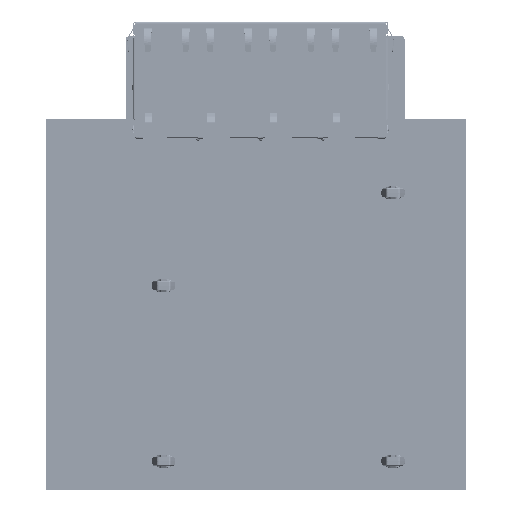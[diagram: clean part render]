
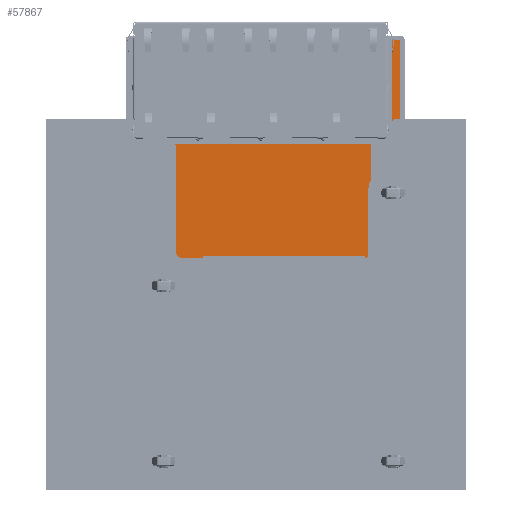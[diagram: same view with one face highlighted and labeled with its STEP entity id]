
A CAD part, front view. The second image highlights one B-rep face of the part: STEP entity #57867.
In plain terms, the highlighted planar face has unit normal (0, -1, 0).
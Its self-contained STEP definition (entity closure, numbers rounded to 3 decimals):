
#57229=DIRECTION('',(0.,0.,-1.));
#57230=VECTOR('',#57229,25.1);
#57231=CARTESIAN_POINT('',(43.545,-4.5,-17.249));
#57232=LINE('',#57231,#57230);
#57257=DIRECTION('',(1.,0.,0.));
#57258=VECTOR('',#57257,63.548);
#57259=CARTESIAN_POINT('',(-20.003,-4.5,-42.349));
#57260=LINE('',#57259,#57258);
#57264=DIRECTION('',(-1.,0.,0.));
#57265=VECTOR('',#57264,2.052);
#57266=CARTESIAN_POINT('',(45.597,-4.5,-17.249));
#57267=LINE('',#57266,#57265);
#57271=CARTESIAN_POINT('',(46.597,-4.5,-43.8));
#57272=DIRECTION('',(0.,1.,0.));
#57273=DIRECTION('',(0.,0.,-1.));
#57274=AXIS2_PLACEMENT_3D('',#57271,#57272,#57273);
#57279=DIRECTION('',(-1.,0.,0.));
#57280=VECTOR('',#57279,1.4);
#57281=CARTESIAN_POINT('',(47.997,-4.5,-44.8));
#57282=LINE('',#57281,#57280);
#57286=CARTESIAN_POINT('',(47.997,-4.5,-45.8));
#57287=DIRECTION('',(0.,-1.,0.));
#57288=DIRECTION('',(1.,0.,0.));
#57289=AXIS2_PLACEMENT_3D('',#57286,#57287,#57288);
#57294=DIRECTION('',(0.,0.,1.));
#57295=VECTOR('',#57294,2.837);
#57296=CARTESIAN_POINT('',(48.997,-4.5,-48.637));
#57297=LINE('',#57296,#57295);
#57301=DIRECTION('',(1.,0.,0.));
#57302=VECTOR('',#57301,6.203);
#57303=CARTESIAN_POINT('',(42.794,-4.5,-48.637));
#57304=LINE('',#57303,#57302);
#57308=CARTESIAN_POINT('',(42.794,-4.5,-53.637));
#57309=DIRECTION('',(0.,1.,0.));
#57310=DIRECTION('',(-1.,0.,0.));
#57311=AXIS2_PLACEMENT_3D('',#57308,#57309,#57310);
#57316=DIRECTION('',(0.,0.,1.));
#57317=VECTOR('',#57316,65.012);
#57318=CARTESIAN_POINT('',(37.794,-4.5,-118.649));
#57319=LINE('',#57318,#57317);
#57323=CARTESIAN_POINT('',(42.794,-4.5,-118.649));
#57324=DIRECTION('',(0.,1.,0.));
#57325=DIRECTION('',(0.,0.,-1.));
#57326=AXIS2_PLACEMENT_3D('',#57323,#57324,#57325);
#57331=DIRECTION('',(-1.,0.,0.));
#57332=VECTOR('',#57331,6.203);
#57333=CARTESIAN_POINT('',(48.997,-4.5,-123.649));
#57334=LINE('',#57333,#57332);
#57338=CARTESIAN_POINT('',(47.997,-4.5,-123.649));
#57339=DIRECTION('',(0.,-1.,0.));
#57340=DIRECTION('',(0.,0.,-1.));
#57341=AXIS2_PLACEMENT_3D('',#57338,#57339,#57340);
#57346=DIRECTION('',(1.,0.,0.));
#57347=VECTOR('',#57346,64.);
#57348=CARTESIAN_POINT('',(-16.003,-4.5,-124.649));
#57349=LINE('',#57348,#57347);
#57353=CARTESIAN_POINT('',(-16.003,-4.5,-123.649));
#57354=DIRECTION('',(0.,-1.,0.));
#57355=DIRECTION('',(-1.,0.,0.));
#57356=AXIS2_PLACEMENT_3D('',#57353,#57354,#57355);
#57361=DIRECTION('',(-1.,0.,0.));
#57362=VECTOR('',#57361,6.203);
#57363=CARTESIAN_POINT('',(-10.8,-4.5,-123.649));
#57364=LINE('',#57363,#57362);
#57368=CARTESIAN_POINT('',(-10.8,-4.5,-118.649));
#57369=DIRECTION('',(0.,1.,0.));
#57370=DIRECTION('',(1.,0.,0.));
#57371=AXIS2_PLACEMENT_3D('',#57368,#57369,#57370);
#57376=DIRECTION('',(0.,0.,-1.));
#57377=VECTOR('',#57376,42.5);
#57378=CARTESIAN_POINT('',(-5.8,-4.5,-76.149));
#57379=LINE('',#57378,#57377);
#57383=CARTESIAN_POINT('',(-10.8,-4.5,-76.149));
#57384=DIRECTION('',(0.,1.,0.));
#57385=DIRECTION('',(0.,0.,1.));
#57386=AXIS2_PLACEMENT_3D('',#57383,#57384,#57385);
#57391=DIRECTION('',(1.,0.,0.));
#57392=VECTOR('',#57391,6.203);
#57393=CARTESIAN_POINT('',(-17.003,-4.5,-71.149));
#57394=LINE('',#57393,#57392);
#57398=DIRECTION('',(0.,0.,-1.));
#57399=VECTOR('',#57398,25.147);
#57400=CARTESIAN_POINT('',(-17.003,-4.5,-46.002));
#57401=LINE('',#57400,#57399);
#57405=CARTESIAN_POINT('',(-18.003,-4.5,-46.002));
#57406=DIRECTION('',(0.,1.,0.));
#57407=DIRECTION('',(0.,0.,1.));
#57408=AXIS2_PLACEMENT_3D('',#57405,#57406,#57407);
#57413=DIRECTION('',(1.,0.,0.));
#57414=VECTOR('',#57413,1.);
#57415=CARTESIAN_POINT('',(-19.003,-4.5,-45.002));
#57416=LINE('',#57415,#57414);
#57420=CARTESIAN_POINT('',(-19.003,-4.5,-44.002));
#57421=DIRECTION('',(0.,-1.,0.));
#57422=DIRECTION('',(-1.,0.,0.));
#57423=AXIS2_PLACEMENT_3D('',#57420,#57421,#57422);
#57428=DIRECTION('',(0.,0.,-1.));
#57429=VECTOR('',#57428,1.653);
#57430=CARTESIAN_POINT('',(-20.003,-4.5,-42.349));
#57431=LINE('',#57430,#57429);
#57442=DIRECTION('',(0.,0.,1.));
#57443=VECTOR('',#57442,26.551);
#57444=CARTESIAN_POINT('',(45.597,-4.5,-43.8));
#57445=LINE('',#57444,#57443);
#57653=CARTESIAN_POINT('',(-17.003,-4.5,-71.149));
#57654=CARTESIAN_POINT('',(-10.8,-4.5,-71.149));
#57655=VERTEX_POINT('',#57653);
#57656=VERTEX_POINT('',#57654);
#57657=CARTESIAN_POINT('',(-5.8,-4.5,-76.149));
#57658=VERTEX_POINT('',#57657);
#57659=CARTESIAN_POINT('',(-5.8,-4.5,-118.649));
#57660=VERTEX_POINT('',#57659);
#57661=CARTESIAN_POINT('',(-10.8,-4.5,-123.649));
#57662=VERTEX_POINT('',#57661);
#57663=CARTESIAN_POINT('',(-17.003,-4.5,-123.649));
#57664=VERTEX_POINT('',#57663);
#57665=CARTESIAN_POINT('',(-16.003,-4.5,-124.649));
#57666=VERTEX_POINT('',#57665);
#57667=CARTESIAN_POINT('',(47.997,-4.5,-124.649));
#57668=VERTEX_POINT('',#57667);
#57669=CARTESIAN_POINT('',(48.997,-4.5,-123.649));
#57670=VERTEX_POINT('',#57669);
#57671=CARTESIAN_POINT('',(42.794,-4.5,-123.649));
#57672=VERTEX_POINT('',#57671);
#57673=CARTESIAN_POINT('',(37.794,-4.5,-118.649));
#57674=VERTEX_POINT('',#57673);
#57675=CARTESIAN_POINT('',(37.794,-4.5,-53.637));
#57676=VERTEX_POINT('',#57675);
#57677=CARTESIAN_POINT('',(42.794,-4.5,-48.637));
#57678=VERTEX_POINT('',#57677);
#57679=CARTESIAN_POINT('',(48.997,-4.5,-48.637));
#57680=VERTEX_POINT('',#57679);
#57681=CARTESIAN_POINT('',(48.997,-4.5,-45.8));
#57682=VERTEX_POINT('',#57681);
#57683=CARTESIAN_POINT('',(47.997,-4.5,-44.8));
#57684=VERTEX_POINT('',#57683);
#57685=CARTESIAN_POINT('',(46.597,-4.5,-44.8));
#57686=VERTEX_POINT('',#57685);
#57687=CARTESIAN_POINT('',(45.597,-4.5,-43.8));
#57688=VERTEX_POINT('',#57687);
#57689=CARTESIAN_POINT('',(45.597,-4.5,-17.249));
#57690=CARTESIAN_POINT('',(43.545,-4.5,-17.249));
#57691=VERTEX_POINT('',#57689);
#57692=VERTEX_POINT('',#57690);
#57697=CARTESIAN_POINT('',(-20.003,-4.5,-44.002));
#57698=CARTESIAN_POINT('',(-19.003,-4.5,-45.002));
#57699=VERTEX_POINT('',#57697);
#57700=VERTEX_POINT('',#57698);
#57701=CARTESIAN_POINT('',(-18.003,-4.5,-45.002));
#57702=VERTEX_POINT('',#57701);
#57710=CARTESIAN_POINT('',(-17.003,-4.5,-46.002));
#57712=VERTEX_POINT('',#57710);
#57717=CARTESIAN_POINT('',(-20.003,-4.5,-42.349));
#57718=CARTESIAN_POINT('',(43.545,-4.5,-42.349));
#57719=VERTEX_POINT('',#57717);
#57720=VERTEX_POINT('',#57718);
#57810=CARTESIAN_POINT('',(0.,-4.5,0.));
#57811=DIRECTION('',(0.,-1.,0.));
#57812=DIRECTION('',(1.,0.,0.));
#57813=AXIS2_PLACEMENT_3D('',#57810,#57811,#57812);
#57814=PLANE('',#57813);
#57815=ORIENTED_EDGE('',*,*,#57789,.T.);
#57816=ORIENTED_EDGE('',*,*,#57801,.F.);
#57818=ORIENTED_EDGE('',*,*,#57817,.F.);
#57820=ORIENTED_EDGE('',*,*,#57819,.F.);
#57822=ORIENTED_EDGE('',*,*,#57821,.F.);
#57824=ORIENTED_EDGE('',*,*,#57823,.F.);
#57826=ORIENTED_EDGE('',*,*,#57825,.F.);
#57828=ORIENTED_EDGE('',*,*,#57827,.F.);
#57830=ORIENTED_EDGE('',*,*,#57829,.F.);
#57832=ORIENTED_EDGE('',*,*,#57831,.F.);
#57834=ORIENTED_EDGE('',*,*,#57833,.F.);
#57836=ORIENTED_EDGE('',*,*,#57835,.F.);
#57838=ORIENTED_EDGE('',*,*,#57837,.F.);
#57840=ORIENTED_EDGE('',*,*,#57839,.F.);
#57842=ORIENTED_EDGE('',*,*,#57841,.F.);
#57844=ORIENTED_EDGE('',*,*,#57843,.F.);
#57846=ORIENTED_EDGE('',*,*,#57845,.F.);
#57848=ORIENTED_EDGE('',*,*,#57847,.F.);
#57850=ORIENTED_EDGE('',*,*,#57849,.F.);
#57852=ORIENTED_EDGE('',*,*,#57851,.F.);
#57854=ORIENTED_EDGE('',*,*,#57853,.F.);
#57856=ORIENTED_EDGE('',*,*,#57855,.F.);
#57858=ORIENTED_EDGE('',*,*,#57857,.F.);
#57860=ORIENTED_EDGE('',*,*,#57859,.F.);
#57862=ORIENTED_EDGE('',*,*,#57861,.F.);
#57864=ORIENTED_EDGE('',*,*,#57863,.F.);
#57865=EDGE_LOOP('',(#57815,#57816,#57818,#57820,#57822,#57824,#57826,#57828,
#57830,#57832,#57834,#57836,#57838,#57840,#57842,#57844,#57846,#57848,#57850,
#57852,#57854,#57856,#57858,#57860,#57862,#57864));
#57866=FACE_OUTER_BOUND('',#57865,.F.);
#57275=CIRCLE('',#57274,1.);
#57290=CIRCLE('',#57289,1.);
#57312=CIRCLE('',#57311,5.);
#57327=CIRCLE('',#57326,5.);
#57342=CIRCLE('',#57341,1.);
#57357=CIRCLE('',#57356,1.);
#57372=CIRCLE('',#57371,5.);
#57387=CIRCLE('',#57386,5.);
#57409=CIRCLE('',#57408,1.);
#57424=CIRCLE('',#57423,1.);
#57789=EDGE_CURVE('',#57719,#57720,#57260,.T.);
#57801=EDGE_CURVE('',#57692,#57720,#57232,.T.);
#57817=EDGE_CURVE('',#57691,#57692,#57267,.T.);
#57819=EDGE_CURVE('',#57688,#57691,#57445,.T.);
#57821=EDGE_CURVE('',#57686,#57688,#57275,.T.);
#57823=EDGE_CURVE('',#57684,#57686,#57282,.T.);
#57825=EDGE_CURVE('',#57682,#57684,#57290,.T.);
#57827=EDGE_CURVE('',#57680,#57682,#57297,.T.);
#57829=EDGE_CURVE('',#57678,#57680,#57304,.T.);
#57831=EDGE_CURVE('',#57676,#57678,#57312,.T.);
#57833=EDGE_CURVE('',#57674,#57676,#57319,.T.);
#57835=EDGE_CURVE('',#57672,#57674,#57327,.T.);
#57837=EDGE_CURVE('',#57670,#57672,#57334,.T.);
#57839=EDGE_CURVE('',#57668,#57670,#57342,.T.);
#57841=EDGE_CURVE('',#57666,#57668,#57349,.T.);
#57843=EDGE_CURVE('',#57664,#57666,#57357,.T.);
#57845=EDGE_CURVE('',#57662,#57664,#57364,.T.);
#57847=EDGE_CURVE('',#57660,#57662,#57372,.T.);
#57849=EDGE_CURVE('',#57658,#57660,#57379,.T.);
#57851=EDGE_CURVE('',#57656,#57658,#57387,.T.);
#57853=EDGE_CURVE('',#57655,#57656,#57394,.T.);
#57855=EDGE_CURVE('',#57712,#57655,#57401,.T.);
#57857=EDGE_CURVE('',#57702,#57712,#57409,.T.);
#57859=EDGE_CURVE('',#57700,#57702,#57416,.T.);
#57861=EDGE_CURVE('',#57699,#57700,#57424,.T.);
#57863=EDGE_CURVE('',#57719,#57699,#57431,.T.);
#57867=ADVANCED_FACE('',(#57866),#57814,.T.);
